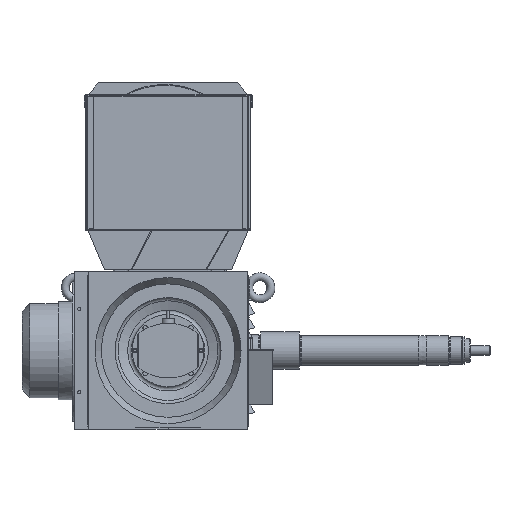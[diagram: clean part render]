
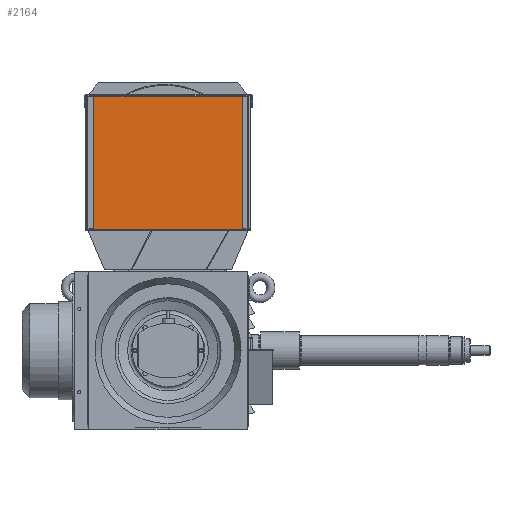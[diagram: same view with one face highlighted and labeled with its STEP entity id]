
A CAD part, left-side view. The second image highlights one B-rep face of the part: STEP entity #2164.
In plain terms, the highlighted planar face has unit normal (-1, 0, 0) as drawn and (0, -1, 0) by its records, which use the part's own axes.
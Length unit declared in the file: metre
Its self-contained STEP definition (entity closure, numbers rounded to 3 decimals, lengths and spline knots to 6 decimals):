
#2164 = ADVANCED_FACE( '', ( #4233 ), #4234, .F. );
#4233 = FACE_OUTER_BOUND( '', #6304, .T. );
#4234 = PLANE( '', #6305 );
#6304 = EDGE_LOOP( '', ( #12798, #12799, #12800, #12801 ) );
#6305 = AXIS2_PLACEMENT_3D( '', #12802, #12803, #12804 );
#12798 = ORIENTED_EDGE( '', *, *, #14749, .F. );
#12799 = ORIENTED_EDGE( '', *, *, #14757, .F. );
#12800 = ORIENTED_EDGE( '', *, *, #14753, .F. );
#12801 = ORIENTED_EDGE( '', *, *, #14756, .F. );
#12802 = CARTESIAN_POINT( '', ( -0.1025, -0.01, 0.085 ) );
#12803 = DIRECTION( '', ( 0., 1., 0. ) );
#12804 = DIRECTION( '', ( 0., 0., 1. ) );
#14749 = EDGE_CURVE( '', #18046, #18048, #18049, .T. );
#14753 = EDGE_CURVE( '', #18054, #18056, #18057, .T. );
#14756 = EDGE_CURVE( '', #18048, #18054, #18060, .T. );
#14757 = EDGE_CURVE( '', #18056, #18046, #18061, .T. );
#18046 = VERTEX_POINT( '', #22836 );
#18048 = VERTEX_POINT( '', #22839 );
#18049 = LINE( '', #22840, #22841 );
#18054 = VERTEX_POINT( '', #22848 );
#18056 = VERTEX_POINT( '', #22851 );
#18057 = LINE( '', #22852, #22853 );
#18060 = LINE( '', #22858, #22859 );
#18061 = LINE( '', #22860, #22861 );
#22836 = CARTESIAN_POINT( '', ( -0.1025, -0.01, -0.085 ) );
#22839 = CARTESIAN_POINT( '', ( -0.1025, -0.01, 0.085 ) );
#22840 = CARTESIAN_POINT( '', ( -0.1025, -0.01, -0.085 ) );
#22841 = VECTOR( '', #26058, 1. );
#22848 = CARTESIAN_POINT( '', ( 0.1025, -0.01, 0.085 ) );
#22851 = CARTESIAN_POINT( '', ( 0.1025, -0.01, -0.085 ) );
#22852 = CARTESIAN_POINT( '', ( 0.1025, -0.01, 0.085 ) );
#22853 = VECTOR( '', #26062, 1. );
#22858 = CARTESIAN_POINT( '', ( -0.1025, -0.01, 0.085 ) );
#22859 = VECTOR( '', #26065, 1. );
#22860 = CARTESIAN_POINT( '', ( 0.1025, -0.01, -0.085 ) );
#22861 = VECTOR( '', #26066, 1. );
#26058 = DIRECTION( '', ( 0., 0., 1. ) );
#26062 = DIRECTION( '', ( 0., 0., -1. ) );
#26065 = DIRECTION( '', ( 1., 0., 0. ) );
#26066 = DIRECTION( '', ( -1., 0., 0. ) );
